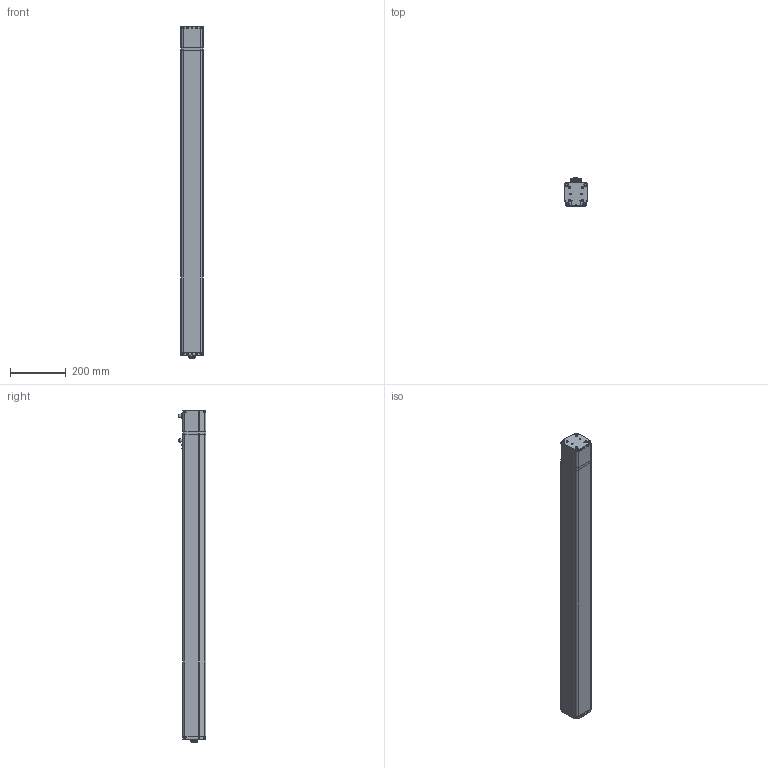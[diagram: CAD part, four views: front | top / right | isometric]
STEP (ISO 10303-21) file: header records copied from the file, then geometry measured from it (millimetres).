
FILE_DESCRIPTION (( 'STEP AP203' ), '1' );
FILE_NAME ('CTC-080-K__-____-_.step', '2023-09-29T10:10:21', ( '' ), ( '' ), 'SwSTEP 2.0', 'SolidWorks 2020', '' );
FILE_SCHEMA (( 'CONFIG_CONTROL_DESIGN' ));
Length unit declared in the file: millimetre
Products named in the file (4): CTC-080_Schubrohr_Hub 1000; CTC-080_housing_Hub_1000_Bremse; CTC-080_Aufsatz-I_M10; CTC-080-K__-____-_
Assembly tree (3 placements, depth 2):
  CTC-080-K__-____-_
    CTC-080_housing_Hub_1000_Bremse
    CTC-080_Schubrohr_Hub 1000
    CTC-080_Aufsatz-I_M10
Bounding box: 82 x 99.6 x 1187 mm (x, y, z)
Volume: 6689243.5 mm3; surface area: 790349.5 mm2
Topology: 34 solids, 34 shells, 858 faces, 1912 edges, 1186 vertices
Faces by surface type: cylinder 338, plane 326, cone 102, torus 84, sphere 8
Entity records: 24154 total; most frequent: DIRECTION 4470, CARTESIAN_POINT 4156, ORIENTED_EDGE 3772, EDGE_CURVE 1886, AXIS2_PLACEMENT_3D 1768, VERTEX_POINT 1186, EDGE_LOOP 956, LINE 934
